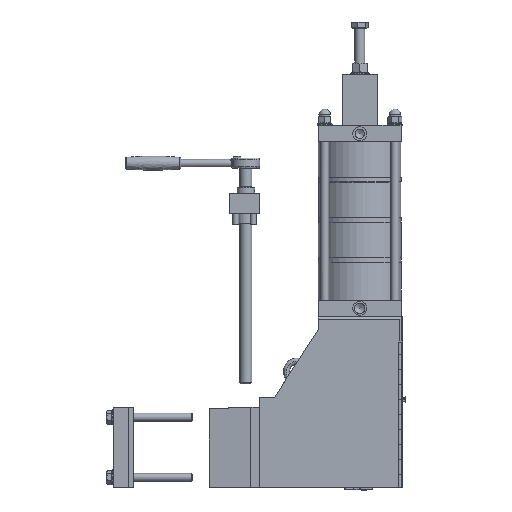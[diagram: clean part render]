
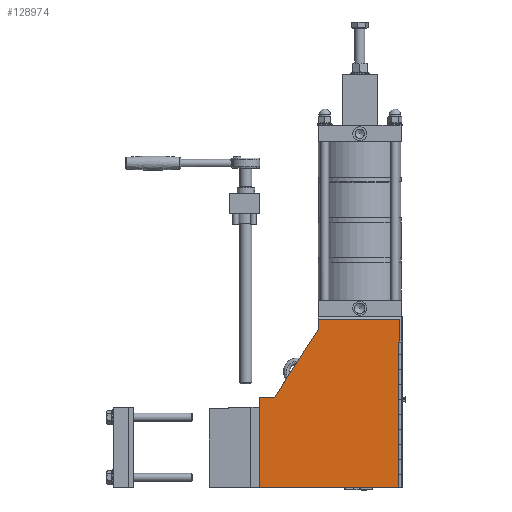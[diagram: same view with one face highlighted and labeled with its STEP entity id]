
A CAD part, left-side view. The second image highlights one B-rep face of the part: STEP entity #128974.
In plain terms, the highlighted planar face has unit normal (-1, 0, 0).
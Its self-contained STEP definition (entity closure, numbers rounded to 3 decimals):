
#18664=LINE('',#220976,#29578);
#18686=LINE('',#221025,#29600);
#18692=LINE('',#221035,#29606);
#18710=LINE('',#221088,#29624);
#18759=LINE('',#221276,#29673);
#18762=LINE('',#221282,#29676);
#18776=LINE('',#221318,#29690);
#18800=LINE('',#221412,#29714);
#18801=LINE('',#221414,#29715);
#29578=VECTOR('',#152633,10.);
#29600=VECTOR('',#152665,10.);
#29606=VECTOR('',#152673,10.);
#29624=VECTOR('',#152725,10.);
#29673=VECTOR('',#152952,10.);
#29676=VECTOR('',#152957,10.);
#29690=VECTOR('',#152991,10.);
#29714=VECTOR('',#153105,10.);
#29715=VECTOR('',#153108,10.);
#37410=FACE_OUTER_BOUND('',#44691,.T.);
#44691=EDGE_LOOP('',(#108147,#108148,#108149,#108150,#108151,#108152,#108153,
#108154,#108155));
#57401=VERTEX_POINT('',#220973);
#57402=VERTEX_POINT('',#220975);
#57423=VERTEX_POINT('',#221022);
#57424=VERTEX_POINT('',#221024);
#57427=VERTEX_POINT('',#221034);
#57445=VERTEX_POINT('',#221085);
#57495=VERTEX_POINT('',#221274);
#57497=VERTEX_POINT('',#221280);
#57534=VERTEX_POINT('',#221410);
#74496=EDGE_CURVE('',#57401,#57402,#18664,.T.);
#74522=EDGE_CURVE('',#57423,#57424,#18686,.T.);
#74528=EDGE_CURVE('',#57424,#57427,#18692,.T.);
#74556=EDGE_CURVE('',#57427,#57445,#18710,.T.);
#74644=EDGE_CURVE('',#57401,#57495,#18759,.T.);
#74647=EDGE_CURVE('',#57495,#57497,#18762,.T.);
#74665=EDGE_CURVE('',#57402,#57423,#18776,.T.);
#74707=EDGE_CURVE('',#57445,#57534,#18800,.T.);
#74708=EDGE_CURVE('',#57534,#57497,#18801,.T.);
#108147=ORIENTED_EDGE('',*,*,#74708,.F.);
#108148=ORIENTED_EDGE('',*,*,#74707,.F.);
#108149=ORIENTED_EDGE('',*,*,#74556,.F.);
#108150=ORIENTED_EDGE('',*,*,#74528,.F.);
#108151=ORIENTED_EDGE('',*,*,#74522,.F.);
#108152=ORIENTED_EDGE('',*,*,#74665,.F.);
#108153=ORIENTED_EDGE('',*,*,#74496,.F.);
#108154=ORIENTED_EDGE('',*,*,#74644,.T.);
#108155=ORIENTED_EDGE('',*,*,#74647,.T.);
#116202=PLANE('',#134148);
#128974=ADVANCED_FACE('',(#37410),#116202,.F.);
#134148=AXIS2_PLACEMENT_3D('',#221413,#153106,#153107);
#152633=DIRECTION('',(0.,1.,0.));
#152665=DIRECTION('',(0.,-1.,0.));
#152673=DIRECTION('',(0.,-0.545,0.839));
#152725=DIRECTION('',(0.,0.,1.));
#152952=DIRECTION('',(0.,0.,1.));
#152957=DIRECTION('',(0.,-1.,0.));
#152991=DIRECTION('',(0.,0.,1.));
#153105=DIRECTION('',(0.,-1.,0.));
#153106=DIRECTION('center_axis',(1.,0.,0.));
#153107=DIRECTION('ref_axis',(0.,1.,0.));
#153108=DIRECTION('',(0.,0.,-1.));
#220973=CARTESIAN_POINT('',(-89.,-276.5,0.));
#220975=CARTESIAN_POINT('',(-89.,0.,0.));
#220976=CARTESIAN_POINT('',(-89.,0.,0.));
#221022=CARTESIAN_POINT('',(-89.,0.,180.));
#221024=CARTESIAN_POINT('',(-89.,-30.,180.));
#221025=CARTESIAN_POINT('',(-89.,-30.,180.));
#221034=CARTESIAN_POINT('',(-89.,-117.67,315.));
#221035=CARTESIAN_POINT('',(-89.,-117.67,315.));
#221085=CARTESIAN_POINT('',(-89.,-117.67,335.));
#221088=CARTESIAN_POINT('',(-89.,-117.67,340.));
#221274=CARTESIAN_POINT('',(-89.,-276.5,290.));
#221276=CARTESIAN_POINT('',(-89.,-276.5,222.525));
#221280=CARTESIAN_POINT('',(-89.,-280.,290.));
#221282=CARTESIAN_POINT('',(-89.,-219.087,290.));
#221318=CARTESIAN_POINT('',(-89.,0.,180.));
#221410=CARTESIAN_POINT('',(-89.,-280.,335.));
#221412=CARTESIAN_POINT('',(-89.,-219.087,335.));
#221413=CARTESIAN_POINT('Origin',(-89.,-155.675,155.049));
#221414=CARTESIAN_POINT('',(-89.,-280.,77.525));
